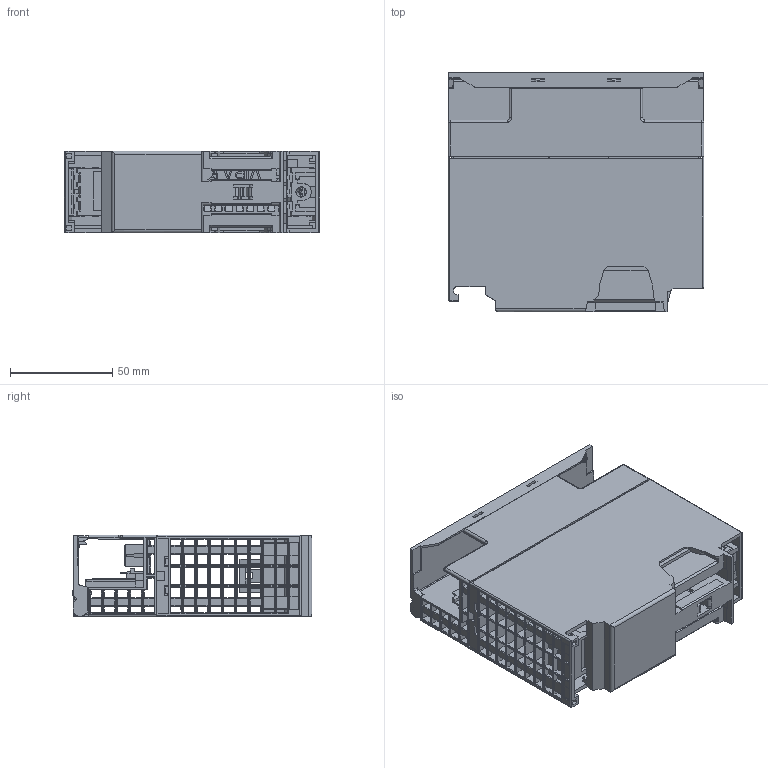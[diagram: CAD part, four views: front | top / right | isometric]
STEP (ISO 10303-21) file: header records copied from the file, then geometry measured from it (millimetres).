
FILE_DESCRIPTION((''),'2;1');
FILE_NAME('332-5HD01_SW0001','2015-04-21T',('TReuther'),(''),'PRO/ENGINEER BY PARAMETRIC TECHNOLOGY CORPORATION, 2013320','PRO/ENGINEER BY PARAMETRIC TECHNOLOGY CORPORATION, 2013320','');
FILE_SCHEMA(('CONFIG_CONTROL_DESIGN'));
Products named in the file (1): 332-5HD01_SW0001
Bounding box: 125 x 117.32 x 40.05 mm (x, y, z)
Volume: 93460.3 mm3; surface area: 127326.3 mm2
Topology: 1 solids, 1 shells, 4441 faces, 12955 edges, 8408 vertices
Faces by surface type: plane 3590, cylinder 777, torus 19, cone 16, sphere 16, bspline 15, extrusion 8
Entity records: 148374 total; most frequent: CARTESIAN_POINT 31851, ORIENTED_EDGE 25910, DIRECTION 21473, EDGE_CURVE 12955, VECTOR 11399, LINE 11391, VERTEX_POINT 8408, AXIS2_PLACEMENT_3D 5037
